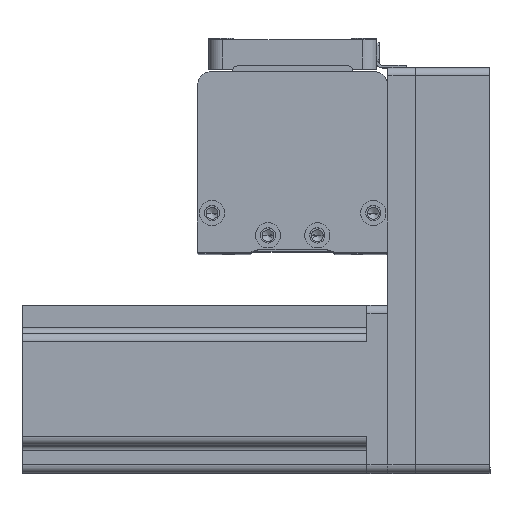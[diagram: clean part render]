
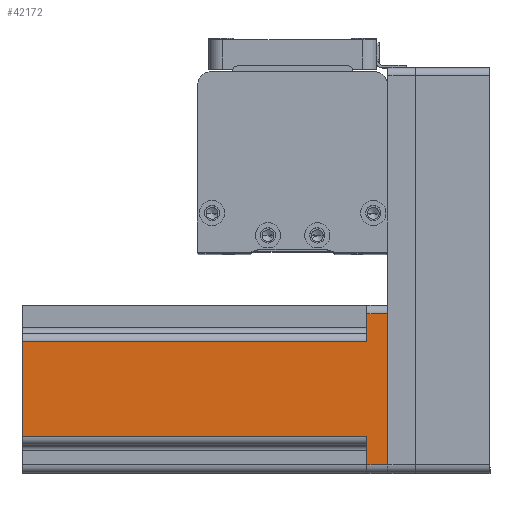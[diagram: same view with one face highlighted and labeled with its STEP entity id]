
A CAD part, top view. The second image highlights one B-rep face of the part: STEP entity #42172.
In plain terms, the highlighted planar face has unit normal (0, 0, 1) as drawn and (0, 1, 0) by its records, which use the part's own axes.
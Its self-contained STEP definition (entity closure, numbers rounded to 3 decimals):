
#267 = VERTEX_POINT ( 'NONE', #37315 ) ;
#328 = CARTESIAN_POINT ( 'NONE',  ( 17., 30., 7.5 ) ) ;
#638 = CARTESIAN_POINT ( 'NONE',  ( 27., 30., 7.5 ) ) ;
#948 = VECTOR ( 'NONE', #38314, 1000. ) ;
#1603 = LINE ( 'NONE', #16455, #18288 ) ;
#1986 = LINE ( 'NONE', #35040, #948 ) ;
#2055 = DIRECTION ( 'NONE',  ( -1., 0., 0. ) ) ;
#2077 = ORIENTED_EDGE ( 'NONE', *, *, #42027, .T. ) ;
#5335 = ORIENTED_EDGE ( 'NONE', *, *, #14377, .T. ) ;
#6643 = VERTEX_POINT ( 'NONE', #10582 ) ;
#6659 = VERTEX_POINT ( 'NONE', #638 ) ;
#7773 = ORIENTED_EDGE ( 'NONE', *, *, #37118, .T. ) ;
#7779 = VECTOR ( 'NONE', #35288, 1000. ) ;
#8298 = ORIENTED_EDGE ( 'NONE', *, *, #30396, .T. ) ;
#8338 = CARTESIAN_POINT ( 'NONE',  ( -20., 30., 7.5 ) ) ;
#8469 = EDGE_CURVE ( 'NONE', #6643, #17788, #9492, .T. ) ;
#8811 = LINE ( 'NONE', #31990, #7779 ) ;
#9492 = LINE ( 'NONE', #41925, #18303 ) ;
#9958 = VERTEX_POINT ( 'NONE', #12383 ) ;
#10582 = CARTESIAN_POINT ( 'NONE',  ( 17., 30., 130.7 ) ) ;
#11580 = LINE ( 'NONE', #35327, #29272 ) ;
#12383 = CARTESIAN_POINT ( 'NONE',  ( 27., 30., 0. ) ) ;
#13540 = CARTESIAN_POINT ( 'NONE',  ( -17., 30., 7.5 ) ) ;
#13746 = VECTOR ( 'NONE', #42586, 1000. ) ;
#14377 = EDGE_CURVE ( 'NONE', #9958, #25774, #22598, .T. ) ;
#15220 = DIRECTION ( 'NONE',  ( 0., 0., -1. ) ) ;
#16419 = CARTESIAN_POINT ( 'NONE',  ( 30., 30., 130.7 ) ) ;
#16455 = CARTESIAN_POINT ( 'NONE',  ( -17., 30., 130.7 ) ) ;
#17788 = VERTEX_POINT ( 'NONE', #26691 ) ;
#18288 = VECTOR ( 'NONE', #19803, 1000. ) ;
#18303 = VECTOR ( 'NONE', #2055, 1000. ) ;
#18609 = AXIS2_PLACEMENT_3D ( 'NONE', #16419, #39728, #19774 ) ;
#18819 = EDGE_LOOP ( 'NONE', ( #2077, #8298, #24778, #7773, #34968, #26362, #5335, #34427 ) ) ;
#19774 = DIRECTION ( 'NONE',  ( 1., 0., 0. ) ) ;
#19803 = DIRECTION ( 'NONE',  ( 0., 0., 1. ) ) ;
#21045 = CARTESIAN_POINT ( 'NONE',  ( -27., 30., 0. ) ) ;
#21290 = EDGE_CURVE ( 'NONE', #25774, #267, #31484, .T. ) ;
#22587 = VECTOR ( 'NONE', #27404, 1000. ) ;
#22598 = LINE ( 'NONE', #29239, #13746 ) ;
#24778 = ORIENTED_EDGE ( 'NONE', *, *, #8469, .F. ) ;
#25349 = FACE_OUTER_BOUND ( 'NONE', #18819, .T. ) ;
#25774 = VERTEX_POINT ( 'NONE', #21045 ) ;
#26362 = ORIENTED_EDGE ( 'NONE', *, *, #41360, .T. ) ;
#26691 = CARTESIAN_POINT ( 'NONE',  ( -17., 30., 130.7 ) ) ;
#27404 = DIRECTION ( 'NONE',  ( 0., 0., 1. ) ) ;
#29239 = CARTESIAN_POINT ( 'NONE',  ( 30., 30., 0. ) ) ;
#29272 = VECTOR ( 'NONE', #15220, 1000. ) ;
#30396 = EDGE_CURVE ( 'NONE', #42295, #17788, #1603, .T. ) ;
#31484 = LINE ( 'NONE', #40650, #22587 ) ;
#31662 = LINE ( 'NONE', #8338, #39418 ) ;
#31990 = CARTESIAN_POINT ( 'NONE',  ( 27., 30., 130.7 ) ) ;
#34427 = ORIENTED_EDGE ( 'NONE', *, *, #21290, .T. ) ;
#34968 = ORIENTED_EDGE ( 'NONE', *, *, #41321, .F. ) ;
#35040 = CARTESIAN_POINT ( 'NONE',  ( 20., 30., 7.5 ) ) ;
#35288 = DIRECTION ( 'NONE',  ( 0., 0., -1. ) ) ;
#35327 = CARTESIAN_POINT ( 'NONE',  ( 17., 30., 130.7 ) ) ;
#35667 = PLANE ( 'NONE',  #18609 ) ;
#37118 = EDGE_CURVE ( 'NONE', #6643, #42614, #11580, .T. ) ;
#37315 = CARTESIAN_POINT ( 'NONE',  ( -27., 30., 7.5 ) ) ;
#38154 = DIRECTION ( 'NONE',  ( 1., 0., 0. ) ) ;
#38314 = DIRECTION ( 'NONE',  ( -1., 0., 0. ) ) ;
#39418 = VECTOR ( 'NONE', #38154, 1000. ) ;
#39728 = DIRECTION ( 'NONE',  ( 0., -1., 0. ) ) ;
#40650 = CARTESIAN_POINT ( 'NONE',  ( -27., 30., 130.7 ) ) ;
#41321 = EDGE_CURVE ( 'NONE', #6659, #42614, #1986, .T. ) ;
#41360 = EDGE_CURVE ( 'NONE', #6659, #9958, #8811, .T. ) ;
#41925 = CARTESIAN_POINT ( 'NONE',  ( 30., 30., 130.7 ) ) ;
#42027 = EDGE_CURVE ( 'NONE', #267, #42295, #31662, .T. ) ;
#42172 = ADVANCED_FACE ( 'NONE', ( #25349 ), #35667, .F. ) ;
#42295 = VERTEX_POINT ( 'NONE', #13540 ) ;
#42586 = DIRECTION ( 'NONE',  ( -1., 0., 0. ) ) ;
#42614 = VERTEX_POINT ( 'NONE', #328 ) ;
